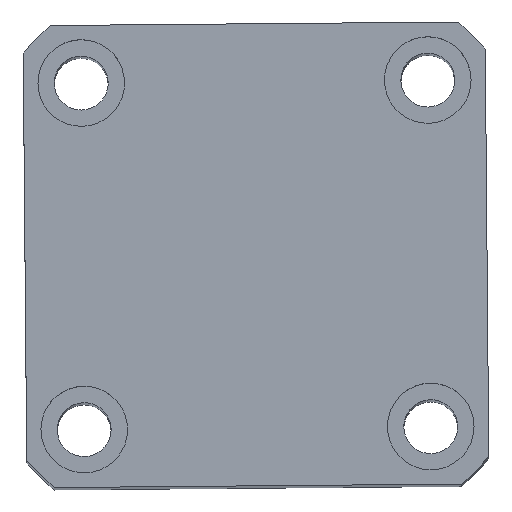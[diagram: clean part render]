
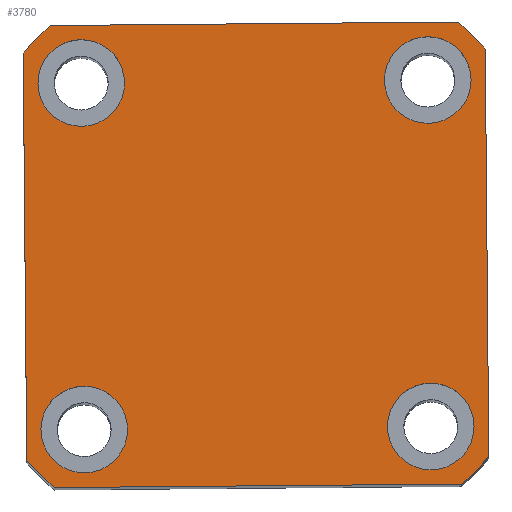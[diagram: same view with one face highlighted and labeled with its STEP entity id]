
A CAD part, top view. The second image highlights one B-rep face of the part: STEP entity #3780.
In plain terms, the highlighted planar face has unit normal (0, 0, 1) as drawn and (1, 0, 0) by its records, which use the part's own axes.
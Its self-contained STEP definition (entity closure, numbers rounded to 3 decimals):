
#5 = EDGE_CURVE ( 'NONE', #4586, #4423, #8456, .T. ) ;
#102 = VERTEX_POINT ( 'NONE', #10032 ) ;
#153 = CARTESIAN_POINT ( 'NONE',  ( 145., -18., -18. ) ) ;
#186 = VERTEX_POINT ( 'NONE', #8424 ) ;
#207 = DIRECTION ( 'NONE',  ( 1., 0., 0. ) ) ;
#301 = DIRECTION ( 'NONE',  ( 1., 0., 0. ) ) ;
#419 = ORIENTED_EDGE ( 'NONE', *, *, #3701, .F. ) ;
#447 = ORIENTED_EDGE ( 'NONE', *, *, #4333, .T. ) ;
#479 = CARTESIAN_POINT ( 'NONE',  ( 145., -18., 22.5 ) ) ;
#499 = DIRECTION ( 'NONE',  ( 0., 0., -1. ) ) ;
#511 = CARTESIAN_POINT ( 'NONE',  ( 145., 0., 0. ) ) ;
#532 = CIRCLE ( 'NONE', #4420, 4.5 ) ;
#608 = DIRECTION ( 'NONE',  ( 1., 0., 0. ) ) ;
#770 = AXIS2_PLACEMENT_3D ( 'NONE', #5592, #608, #6439 ) ;
#780 = AXIS2_PLACEMENT_3D ( 'NONE', #3785, #9579, #4611 ) ;
#1007 = DIRECTION ( 'NONE',  ( 0., 0., -1. ) ) ;
#1097 = CARTESIAN_POINT ( 'NONE',  ( 145., 21.166, 24. ) ) ;
#1108 = FACE_BOUND ( 'NONE', #7067, .T. ) ;
#1130 = ORIENTED_EDGE ( 'NONE', *, *, #7796, .T. ) ;
#1146 = CARTESIAN_POINT ( 'NONE',  ( 145., 0., 0. ) ) ;
#1199 = EDGE_CURVE ( 'NONE', #102, #4586, #8447, .T. ) ;
#1413 = CARTESIAN_POINT ( 'NONE',  ( 145., -24., 21.166 ) ) ;
#1448 = CIRCLE ( 'NONE', #770, 4.5 ) ;
#1723 = ORIENTED_EDGE ( 'NONE', *, *, #6393, .F. ) ;
#1843 = LINE ( 'NONE', #7505, #3526 ) ;
#1858 = CARTESIAN_POINT ( 'NONE',  ( 145., -24., 24. ) ) ;
#1901 = ORIENTED_EDGE ( 'NONE', *, *, #7914, .T. ) ;
#1985 = DIRECTION ( 'NONE',  ( 0., 0., -1. ) ) ;
#2081 = VERTEX_POINT ( 'NONE', #7156 ) ;
#2233 = EDGE_CURVE ( 'NONE', #4426, #8006, #532, .T. ) ;
#2401 = CARTESIAN_POINT ( 'NONE',  ( 145., -18., 18. ) ) ;
#2407 = ORIENTED_EDGE ( 'NONE', *, *, #1199, .T. ) ;
#2508 = CARTESIAN_POINT ( 'NONE',  ( 145., 18., 22.5 ) ) ;
#2735 = ORIENTED_EDGE ( 'NONE', *, *, #6208, .F. ) ;
#3021 = ORIENTED_EDGE ( 'NONE', *, *, #10145, .F. ) ;
#3029 = FACE_OUTER_BOUND ( 'NONE', #6815, .T. ) ;
#3046 = VERTEX_POINT ( 'NONE', #3523 ) ;
#3049 = PLANE ( 'NONE',  #5261 ) ;
#3172 = ORIENTED_EDGE ( 'NONE', *, *, #9175, .T. ) ;
#3192 = CARTESIAN_POINT ( 'NONE',  ( 145., 18., -18. ) ) ;
#3216 = DIRECTION ( 'NONE',  ( 0., 0., -1. ) ) ;
#3229 = CIRCLE ( 'NONE', #4545, 4.5 ) ;
#3275 = LINE ( 'NONE', #9960, #9620 ) ;
#3283 = ORIENTED_EDGE ( 'NONE', *, *, #2233, .F. ) ;
#3379 = DIRECTION ( 'NONE',  ( 0., 0., 1. ) ) ;
#3523 = CARTESIAN_POINT ( 'NONE',  ( 145., 24., 21.166 ) ) ;
#3526 = VECTOR ( 'NONE', #8326, 1000. ) ;
#3546 = CARTESIAN_POINT ( 'NONE',  ( 145., 21.166, -24. ) ) ;
#3575 = CIRCLE ( 'NONE', #780, 4.5 ) ;
#3583 = ORIENTED_EDGE ( 'NONE', *, *, #8738, .F. ) ;
#3687 = ORIENTED_EDGE ( 'NONE', *, *, #7452, .F. ) ;
#3701 = EDGE_CURVE ( 'NONE', #186, #5847, #3575, .T. ) ;
#3742 = VERTEX_POINT ( 'NONE', #479 ) ;
#3764 = CARTESIAN_POINT ( 'NONE',  ( 145., 18., -13.5 ) ) ;
#3780 = ADVANCED_FACE ( 'NONE', ( #5510, #1108, #9635, #7948, #3029 ), #3049, .T. ) ;
#3785 = CARTESIAN_POINT ( 'NONE',  ( 145., 18., 18. ) ) ;
#4025 = DIRECTION ( 'NONE',  ( 0., 0., -1. ) ) ;
#4060 = CARTESIAN_POINT ( 'NONE',  ( 145., -18., 18. ) ) ;
#4333 = EDGE_CURVE ( 'NONE', #4423, #6401, #7082, .T. ) ;
#4420 = AXIS2_PLACEMENT_3D ( 'NONE', #8827, #9659, #8940 ) ;
#4423 = VERTEX_POINT ( 'NONE', #5347 ) ;
#4426 = VERTEX_POINT ( 'NONE', #9500 ) ;
#4545 = AXIS2_PLACEMENT_3D ( 'NONE', #4060, #9851, #4887 ) ;
#4586 = VERTEX_POINT ( 'NONE', #1413 ) ;
#4611 = DIRECTION ( 'NONE',  ( 0., 0., -1. ) ) ;
#4612 = VERTEX_POINT ( 'NONE', #5543 ) ;
#4790 = AXIS2_PLACEMENT_3D ( 'NONE', #3192, #8998, #4025 ) ;
#4887 = DIRECTION ( 'NONE',  ( 0., 0., -1. ) ) ;
#4896 = CARTESIAN_POINT ( 'NONE',  ( 145., 0., 0. ) ) ;
#4936 = DIRECTION ( 'NONE',  ( 1., 0., 0. ) ) ;
#4979 = DIRECTION ( 'NONE',  ( 0., 0., -1. ) ) ;
#5200 = CARTESIAN_POINT ( 'NONE',  ( 145., 0., 0. ) ) ;
#5261 = AXIS2_PLACEMENT_3D ( 'NONE', #511, #10498, #5556 ) ;
#5288 = CARTESIAN_POINT ( 'NONE',  ( 145., -18., -18. ) ) ;
#5347 = CARTESIAN_POINT ( 'NONE',  ( 145., -24., -21.166 ) ) ;
#5372 = AXIS2_PLACEMENT_3D ( 'NONE', #2401, #8161, #3216 ) ;
#5479 = DIRECTION ( 'NONE',  ( 1., 0., 0. ) ) ;
#5510 = FACE_BOUND ( 'NONE', #6735, .T. ) ;
#5539 = CARTESIAN_POINT ( 'NONE',  ( 145., 24., 24. ) ) ;
#5543 = CARTESIAN_POINT ( 'NONE',  ( 145., 24., -21.166 ) ) ;
#5556 = DIRECTION ( 'NONE',  ( 0., 0., -1. ) ) ;
#5592 = CARTESIAN_POINT ( 'NONE',  ( 145., 18., 18. ) ) ;
#5601 = CIRCLE ( 'NONE', #8188, 4.5 ) ;
#5631 = EDGE_CURVE ( 'NONE', #4612, #3046, #3275, .T. ) ;
#5847 = VERTEX_POINT ( 'NONE', #2508 ) ;
#5997 = DIRECTION ( 'NONE',  ( 1., 0., 0. ) ) ;
#6050 = DIRECTION ( 'NONE',  ( 0., 0., -1. ) ) ;
#6121 = CIRCLE ( 'NONE', #10541, 32. ) ;
#6139 = DIRECTION ( 'NONE',  ( 0., 0., -1. ) ) ;
#6208 = EDGE_CURVE ( 'NONE', #7122, #2081, #5601, .T. ) ;
#6284 = VECTOR ( 'NONE', #10137, 1000. ) ;
#6285 = VERTEX_POINT ( 'NONE', #3546 ) ;
#6341 = AXIS2_PLACEMENT_3D ( 'NONE', #4896, #4936, #4979 ) ;
#6393 = EDGE_CURVE ( 'NONE', #5847, #186, #1448, .T. ) ;
#6401 = VERTEX_POINT ( 'NONE', #8881 ) ;
#6439 = DIRECTION ( 'NONE',  ( 0., 0., -1. ) ) ;
#6444 = ORIENTED_EDGE ( 'NONE', *, *, #8399, .F. ) ;
#6735 = EDGE_LOOP ( 'NONE', ( #2735, #6444 ) ) ;
#6815 = EDGE_LOOP ( 'NONE', ( #1130, #1901, #8752, #10326, #3172, #2407, #9649, #447 ) ) ;
#6965 = DIRECTION ( 'NONE',  ( 1., 0., 0. ) ) ;
#7067 = EDGE_LOOP ( 'NONE', ( #3583, #3021 ) ) ;
#7082 = CIRCLE ( 'NONE', #9039, 32. ) ;
#7122 = VERTEX_POINT ( 'NONE', #8648 ) ;
#7156 = CARTESIAN_POINT ( 'NONE',  ( 145., -18., -13.5 ) ) ;
#7244 = DIRECTION ( 'NONE',  ( 0., -1., 0. ) ) ;
#7452 = EDGE_CURVE ( 'NONE', #8006, #4426, #9712, .T. ) ;
#7492 = CARTESIAN_POINT ( 'NONE',  ( 145., -18., 13.5 ) ) ;
#7505 = CARTESIAN_POINT ( 'NONE',  ( 145., 24., -24. ) ) ;
#7796 = EDGE_CURVE ( 'NONE', #6401, #6285, #1843, .T. ) ;
#7914 = EDGE_CURVE ( 'NONE', #6285, #4612, #9362, .T. ) ;
#7948 = FACE_BOUND ( 'NONE', #8369, .T. ) ;
#8006 = VERTEX_POINT ( 'NONE', #3764 ) ;
#8008 = VECTOR ( 'NONE', #7244, 1000. ) ;
#8161 = DIRECTION ( 'NONE',  ( 1., 0., 0. ) ) ;
#8188 = AXIS2_PLACEMENT_3D ( 'NONE', #153, #5997, #1007 ) ;
#8257 = VERTEX_POINT ( 'NONE', #7492 ) ;
#8326 = DIRECTION ( 'NONE',  ( 0., 1., 0. ) ) ;
#8369 = EDGE_LOOP ( 'NONE', ( #419, #1723 ) ) ;
#8399 = EDGE_CURVE ( 'NONE', #2081, #7122, #10481, .T. ) ;
#8424 = CARTESIAN_POINT ( 'NONE',  ( 145., 18., 13.5 ) ) ;
#8447 = CIRCLE ( 'NONE', #6341, 32. ) ;
#8456 = LINE ( 'NONE', #1858, #6284 ) ;
#8648 = CARTESIAN_POINT ( 'NONE',  ( 145., -18., -22.5 ) ) ;
#8738 = EDGE_CURVE ( 'NONE', #8257, #3742, #3229, .T. ) ;
#8752 = ORIENTED_EDGE ( 'NONE', *, *, #5631, .T. ) ;
#8827 = CARTESIAN_POINT ( 'NONE',  ( 145., 18., -18. ) ) ;
#8881 = CARTESIAN_POINT ( 'NONE',  ( 145., -21.166, -24. ) ) ;
#8940 = DIRECTION ( 'NONE',  ( 0., 0., -1. ) ) ;
#8998 = DIRECTION ( 'NONE',  ( 1., 0., 0. ) ) ;
#9039 = AXIS2_PLACEMENT_3D ( 'NONE', #1146, #6965, #1985 ) ;
#9175 = EDGE_CURVE ( 'NONE', #10374, #102, #10244, .T. ) ;
#9310 = EDGE_LOOP ( 'NONE', ( #3283, #3687 ) ) ;
#9362 = CIRCLE ( 'NONE', #10166, 32. ) ;
#9500 = CARTESIAN_POINT ( 'NONE',  ( 145., 18., -22.5 ) ) ;
#9579 = DIRECTION ( 'NONE',  ( 1., 0., 0. ) ) ;
#9620 = VECTOR ( 'NONE', #3379, 1000. ) ;
#9635 = FACE_BOUND ( 'NONE', #9310, .T. ) ;
#9649 = ORIENTED_EDGE ( 'NONE', *, *, #5, .T. ) ;
#9659 = DIRECTION ( 'NONE',  ( 1., 0., 0. ) ) ;
#9712 = CIRCLE ( 'NONE', #4790, 4.5 ) ;
#9851 = DIRECTION ( 'NONE',  ( 1., 0., 0. ) ) ;
#9935 = EDGE_CURVE ( 'NONE', #3046, #10374, #6121, .T. ) ;
#9960 = CARTESIAN_POINT ( 'NONE',  ( 145., 24., 24. ) ) ;
#10032 = CARTESIAN_POINT ( 'NONE',  ( 145., -21.166, 24. ) ) ;
#10137 = DIRECTION ( 'NONE',  ( 0., 0., -1. ) ) ;
#10145 = EDGE_CURVE ( 'NONE', #3742, #8257, #10322, .T. ) ;
#10166 = AXIS2_PLACEMENT_3D ( 'NONE', #5200, #207, #6050 ) ;
#10244 = LINE ( 'NONE', #5539, #8008 ) ;
#10322 = CIRCLE ( 'NONE', #5372, 4.5 ) ;
#10326 = ORIENTED_EDGE ( 'NONE', *, *, #9935, .T. ) ;
#10374 = VERTEX_POINT ( 'NONE', #1097 ) ;
#10428 = CARTESIAN_POINT ( 'NONE',  ( 145., 0., 0. ) ) ;
#10481 = CIRCLE ( 'NONE', #10489, 4.5 ) ;
#10489 = AXIS2_PLACEMENT_3D ( 'NONE', #5288, #301, #6139 ) ;
#10498 = DIRECTION ( 'NONE',  ( 1., 0., 0. ) ) ;
#10541 = AXIS2_PLACEMENT_3D ( 'NONE', #10428, #5479, #499 ) ;
